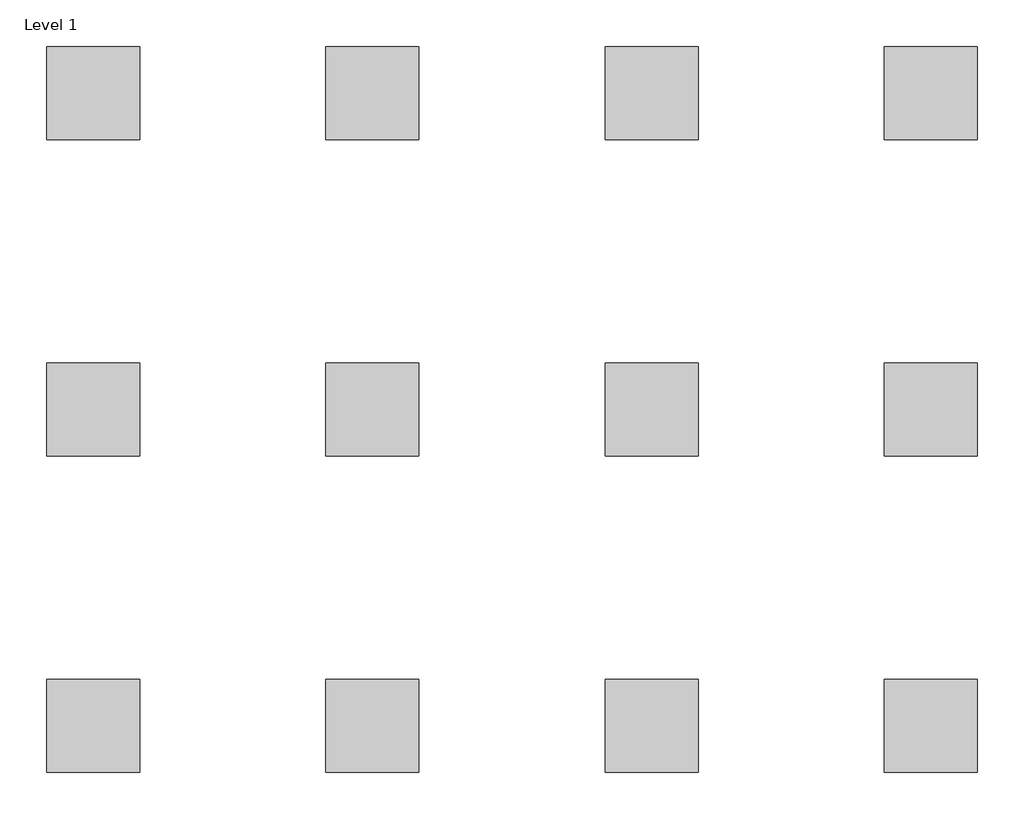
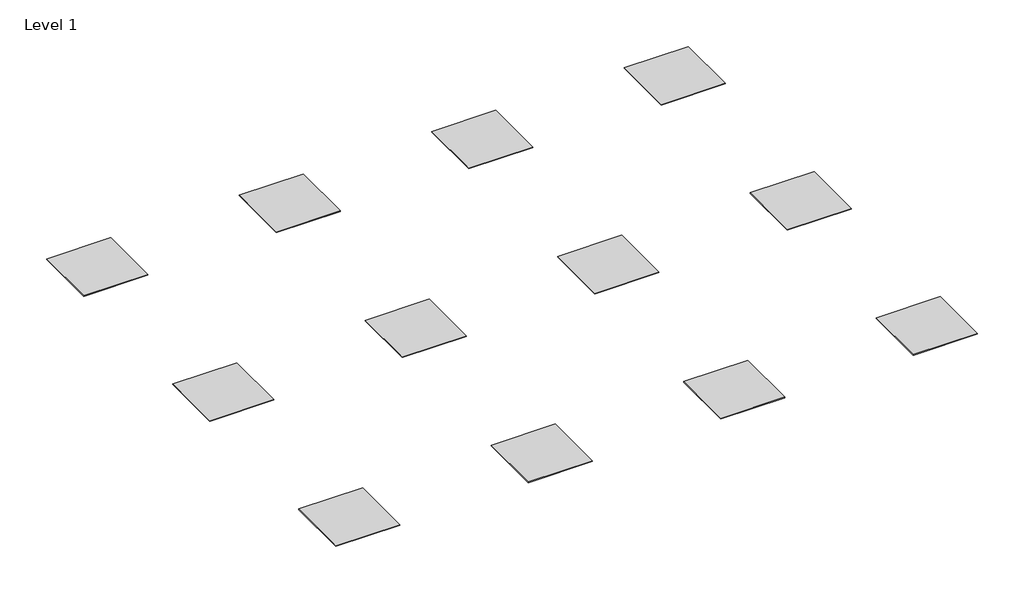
# One storey: 12 proxies.
"""IFC4 building model written with IfcOpenShell, lengths in millimetres."""

from ifc_helpers import new_model, si_unit, origin, place, context, project, spatial, transform, mapped, element, save
from components import generic_models_feed3d8b

model = new_model("IFC4")

# Units and contexts
model_context = context("Model", 3, world=origin())
ifc_project = project(units=[si_unit("LENGTHUNIT", "METRE", prefix="MILLI")], contexts=[model_context])

# Site, building, storey
site = spatial("IfcSite", under=ifc_project)
building = spatial("IfcBuilding", under=site)
storey = spatial("IfcBuildingStorey", under=building, Name="Level 1", Elevation=0.0)

# Proxies
placement = place(None, origin())
generic_models_shape = generic_models_feed3d8b(model_context)
element("IfcBuildingElementProxy", 1, Name="Placeholder : Placeholder", ObjectType="Placeholder : Placeholder", at=placement, inside=storey, context=model_context, shape_type="MappedRepresentation", body=[
    mapped(generic_models_shape, transform((-9572.4474797, 4962.3553628, 0.0), x_axis=(1.0, 0.0, 0.0), y_axis=(0.0, 1.0, 0.0), z_axis=(0.0, 0.0, 1.0))),
])
element("IfcBuildingElementProxy", 2, Name="Placeholder : Placeholder", ObjectType="Placeholder : Placeholder", at=placement, inside=storey, context=model_context, shape_type="MappedRepresentation", body=[
    mapped(generic_models_shape, transform((-9272.4474797, 4962.3553628, 0.0), x_axis=(1.0, 0.0, 0.0), y_axis=(0.0, 1.0, 0.0), z_axis=(0.0, 0.0, 1.0))),
])
element("IfcBuildingElementProxy", 3, Name="Placeholder : Placeholder", ObjectType="Placeholder : Placeholder", at=placement, inside=storey, context=model_context, shape_type="MappedRepresentation", body=[
    mapped(generic_models_shape, transform((-8972.4474797, 4962.3553628, 0.0), x_axis=(1.0, 0.0, 0.0), y_axis=(0.0, 1.0, 0.0), z_axis=(0.0, 0.0, 1.0))),
])
element("IfcBuildingElementProxy", 4, Name="Placeholder : Placeholder", ObjectType="Placeholder : Placeholder", at=placement, inside=storey, context=model_context, shape_type="MappedRepresentation", body=[
    mapped(generic_models_shape, transform((-8672.4474797, 4962.3553628, 0.0), x_axis=(1.0, 0.0, 0.0), y_axis=(0.0, 1.0, 0.0), z_axis=(0.0, 0.0, 1.0))),
])
element("IfcBuildingElementProxy", 5, Name="Placeholder : Placeholder", ObjectType="Placeholder : Placeholder", at=placement, inside=storey, context=model_context, shape_type="MappedRepresentation", body=[
    mapped(generic_models_shape, transform((-9572.4474797, 4622.3553628, 0.0), x_axis=(1.0, 0.0, 0.0), y_axis=(0.0, 1.0, 0.0), z_axis=(0.0, 0.0, 1.0))),
])
element("IfcBuildingElementProxy", 6, Name="Placeholder : Placeholder", ObjectType="Placeholder : Placeholder", at=placement, inside=storey, context=model_context, shape_type="MappedRepresentation", body=[
    mapped(generic_models_shape, transform((-9272.4474797, 4622.3553628, 0.0), x_axis=(1.0, 0.0, 0.0), y_axis=(0.0, 1.0, 0.0), z_axis=(0.0, 0.0, 1.0))),
])
element("IfcBuildingElementProxy", 7, Name="Placeholder : Placeholder", ObjectType="Placeholder : Placeholder", at=placement, inside=storey, context=model_context, shape_type="MappedRepresentation", body=[
    mapped(generic_models_shape, transform((-8972.4474797, 4622.3553628, 0.0), x_axis=(1.0, 0.0, 0.0), y_axis=(0.0, 1.0, 0.0), z_axis=(0.0, 0.0, 1.0))),
])
element("IfcBuildingElementProxy", 8, Name="Placeholder : Placeholder", ObjectType="Placeholder : Placeholder", at=placement, inside=storey, context=model_context, shape_type="MappedRepresentation", body=[
    mapped(generic_models_shape, transform((-8672.4474797, 4622.3553628, 0.0), x_axis=(1.0, 0.0, 0.0), y_axis=(0.0, 1.0, 0.0), z_axis=(0.0, 0.0, 1.0))),
])
element("IfcBuildingElementProxy", 9, Name="Placeholder : Placeholder", ObjectType="Placeholder : Placeholder", at=placement, inside=storey, context=model_context, shape_type="MappedRepresentation", body=[
    mapped(generic_models_shape, transform((-9572.4474797, 4282.3553628, 0.0), x_axis=(1.0, 0.0, 0.0), y_axis=(0.0, 1.0, 0.0), z_axis=(0.0, 0.0, 1.0))),
])
element("IfcBuildingElementProxy", 10, Name="Placeholder : Placeholder", ObjectType="Placeholder : Placeholder", at=placement, inside=storey, context=model_context, shape_type="MappedRepresentation", body=[
    mapped(generic_models_shape, transform((-9272.4474797, 4282.3553628, 0.0), x_axis=(1.0, 0.0, 0.0), y_axis=(0.0, 1.0, 0.0), z_axis=(0.0, 0.0, 1.0))),
])
element("IfcBuildingElementProxy", 11, Name="Placeholder : Placeholder", ObjectType="Placeholder : Placeholder", at=placement, inside=storey, context=model_context, shape_type="MappedRepresentation", body=[
    mapped(generic_models_shape, transform((-8972.4474797, 4282.3553628, 0.0), x_axis=(1.0, 0.0, 0.0), y_axis=(0.0, 1.0, 0.0), z_axis=(0.0, 0.0, 1.0))),
])
element("IfcBuildingElementProxy", 12, Name="Placeholder : Placeholder", ObjectType="Placeholder : Placeholder", at=placement, inside=storey, context=model_context, shape_type="MappedRepresentation", body=[
    mapped(generic_models_shape, transform((-8672.4474797, 4282.3553628, 0.0), x_axis=(1.0, 0.0, 0.0), y_axis=(0.0, 1.0, 0.0), z_axis=(0.0, 0.0, 1.0))),
])

save(model, "model.ifc")
